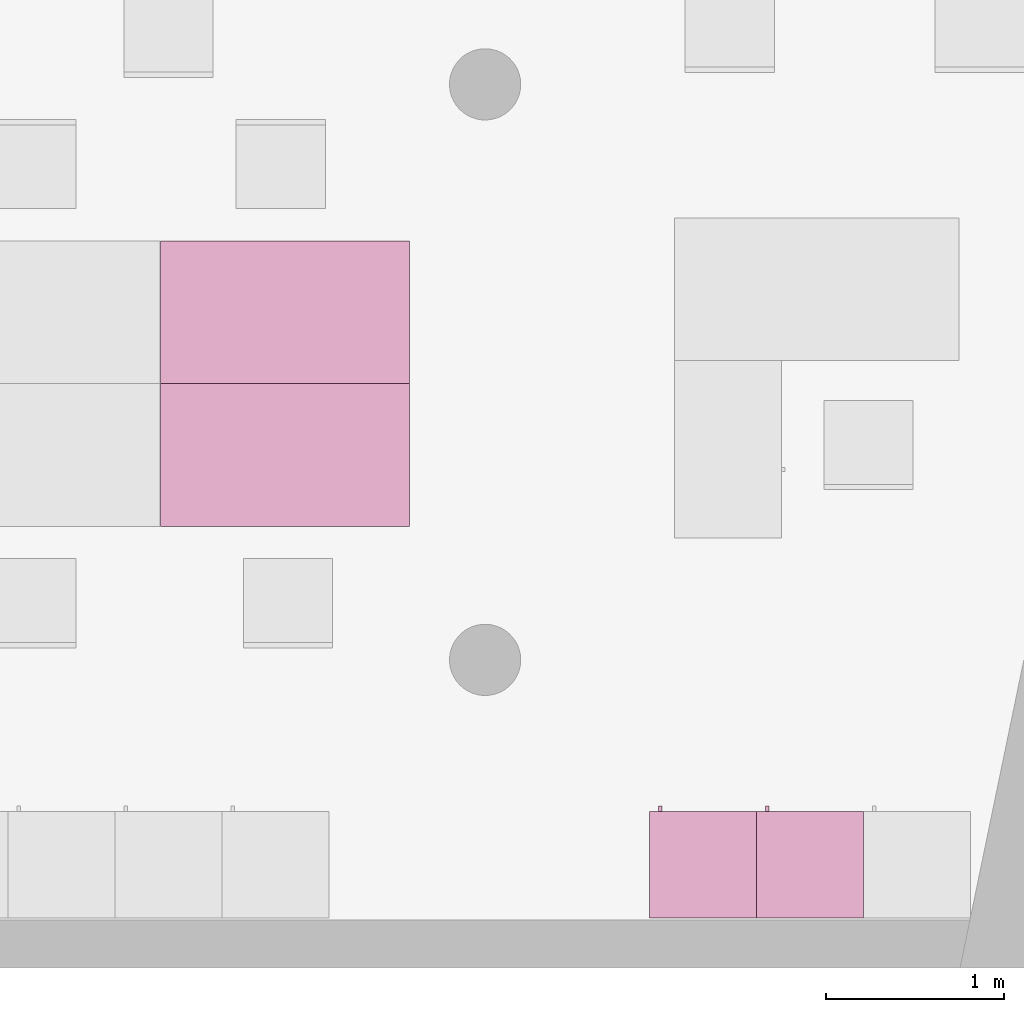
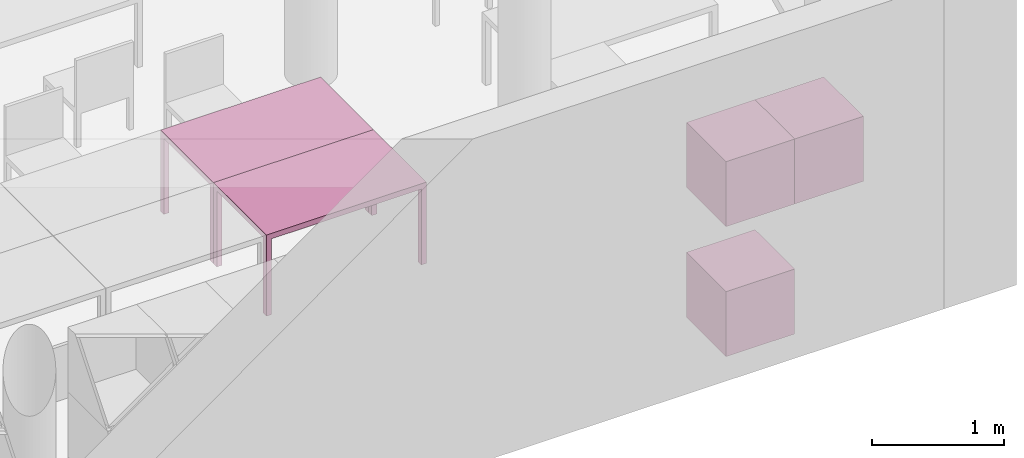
"""IFC4 building model written with IfcOpenShell, lengths in metres."""

from ifc_helpers import new_model, entity, si_unit, converted_unit, derived_unit, frame, origin, place, context, subcontext, project, spatial, faceted_brep, element, save


model = new_model("IFC4")

# Units and contexts
model_context = context("Model", 3, precision=1e-05, world=origin())
body_context = subcontext(model_context, "Body", "Model", "MODEL_VIEW")
ifc_project = project(units=[si_unit("LENGTHUNIT", "METRE"), si_unit("AREAUNIT", "SQUARE_METRE"), si_unit("VOLUMEUNIT", "CUBIC_METRE"), si_unit("MASSUNIT", "GRAM", prefix="KILO"), converted_unit("PLANEANGLEUNIT", "DEGREE", entity("IfcPlaneAngleMeasure", 0.0174532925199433), si_unit("PLANEANGLEUNIT", "RADIAN"), dimensions=[0, 0, 0, 0, 0, 0, 0]), derived_unit("THERMALTRANSMITTANCEUNIT", [(si_unit("POWERUNIT", "WATT"), 1), (si_unit("THERMODYNAMICTEMPERATUREUNIT", "KELVIN"), -1), (si_unit("LENGTHUNIT", "METRE"), -2)]), derived_unit("VOLUMETRICFLOWRATEUNIT", [(si_unit("LENGTHUNIT", "METRE"), 3), (converted_unit("TIMEUNIT", "hour", entity("IfcTimeMeasure", 3600.0), si_unit("TIMEUNIT", "SECOND"), dimensions=[0, 0, 1, 0, 0, 0, 0]), -1), (si_unit("LENGTHUNIT", "METRE"), -1)])], contexts=[model_context])

# Building, storeys
building_placement = place(None, origin())
building = spatial("IfcBuilding", under=ifc_project, at=building_placement, Name="HABITATGE PLURIFAMILIAR", CompositionType="ELEMENT")
storey_1_placement = place(building_placement, frame((0.0, 0.0, 15.28)))
storey_1 = spatial("IfcBuildingStorey", under=building, at=storey_1_placement, Name="PLANTA QUARTA", CompositionType="ELEMENT", Elevation=15.28)
storey_2_placement = place(storey_1_placement, frame((0.0, 0.0, 12.27)))
storey_2 = spatial("IfcBuildingStorey", under=storey_1, at=storey_2_placement, Name="NOU", CompositionType="PARTIAL")

# Furniture
furniture_1_placement = place(storey_2_placement, frame((419.17054591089, 15.3194598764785, -12.3699999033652)))
element("IfcFurniture", 1, at=furniture_1_placement, inside=storey_2, Name="Taula 140X80_P4", context=body_context, shape_type="Brep", body=[
    faceted_brep([(0.04375, 0.750069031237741, 0.0), (0.04375, 0.800069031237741, 0.0), (0.0, 0.800069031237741, 0.0), (0.0, 0.750069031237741, 0.0), (0.04375, 0.800069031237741, 0.7), (0.04375, 0.750069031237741, 0.7), (0.0, 0.750069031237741, 0.7), (0.0, 0.800069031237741, 0.7)], [[[0, 1, 2, 3]], [[4, 5, 6, 7]], [[1, 0, 5, 4]], [[2, 1, 4, 7]], [[3, 2, 7, 6]], [[0, 3, 6, 5]]], orient=[[False], [False], [False], [False], [False], [False]]),
    faceted_brep([(0.04375, 0.0, 0.0), (0.04375, 0.05, 0.0), (0.0, 0.05, 0.0), (0.0, 0.0, 0.0), (0.04375, 0.05, 0.7), (0.04375, 0.0, 0.7), (0.0, 0.0, 0.7), (0.0, 0.05, 0.7)], [[[0, 1, 2, 3]], [[4, 5, 6, 7]], [[1, 0, 5, 4]], [[2, 1, 4, 7]], [[3, 2, 7, 6]], [[0, 3, 6, 5]]], orient=[[False], [False], [False], [False], [False], [False]]),
    faceted_brep([(1.39732768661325, 0.0, 0.7), (1.39732768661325, 0.800069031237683, 0.7), (0.0, 0.800069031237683, 0.7), (0.0, 0.0, 0.7), (1.39732768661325, 0.800069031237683, 0.75), (1.39732768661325, 0.0, 0.75), (0.0, 0.0, 0.75), (0.0, 0.800069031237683, 0.75)], [[[0, 1, 2, 3]], [[4, 5, 6, 7]], [[1, 0, 5, 4]], [[2, 1, 4, 7]], [[3, 2, 7, 6]], [[0, 3, 6, 5]]], orient=[[False], [False], [False], [False], [False], [False]]),
    faceted_brep([(1.39732768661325, 0.750069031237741, 0.0), (1.39732768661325, 0.800069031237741, 0.0), (1.35357768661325, 0.800069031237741, 0.0), (1.35357768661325, 0.750069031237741, 0.0), (1.39732768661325, 0.800069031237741, 0.7), (1.39732768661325, 0.750069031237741, 0.7), (1.35357768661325, 0.750069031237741, 0.7), (1.35357768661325, 0.800069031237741, 0.7)], [[[0, 1, 2, 3]], [[4, 5, 6, 7]], [[1, 0, 5, 4]], [[2, 1, 4, 7]], [[3, 2, 7, 6]], [[0, 3, 6, 5]]], orient=[[False], [False], [False], [False], [False], [False]]),
    faceted_brep([(1.39732768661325, 0.0, 0.0), (1.39732768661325, 0.05, 0.0), (1.35357768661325, 0.05, 0.0), (1.35357768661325, 0.0, 0.0), (1.39732768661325, 0.05, 0.7), (1.39732768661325, 0.0, 0.7), (1.35357768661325, 0.0, 0.7), (1.35357768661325, 0.05, 0.7)], [[[0, 1, 2, 3]], [[4, 5, 6, 7]], [[1, 0, 5, 4]], [[2, 1, 4, 7]], [[3, 2, 7, 6]], [[0, 3, 6, 5]]], orient=[[False], [False], [False], [False], [False], [False]]),
])
furniture_2_placement = place(storey_2_placement, frame((419.17054591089, 16.1195289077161, -12.3699999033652)))
element("IfcFurniture", 2, at=furniture_2_placement, inside=storey_2, Name="Taula 140X80_P4", context=body_context, shape_type="Brep", body=[
    faceted_brep([(0.04375, 0.05, 0.0), (0.0, 0.05, 0.0), (0.0, 0.0, 0.0), (0.04375, 0.0, 0.0), (0.04375, 0.0, 0.7), (0.0, 0.0, 0.7), (0.0, 0.05, 0.7), (0.04375, 0.05, 0.7)], [[[0, 1, 2, 3]], [[4, 5, 6, 7]], [[3, 4, 7, 0]], [[2, 5, 4, 3]], [[1, 6, 5, 2]], [[0, 7, 6, 1]]], orient=[[False], [False], [False], [False], [False], [False]]),
    faceted_brep([(0.04375, 0.800069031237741, 0.0), (0.0, 0.800069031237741, 0.0), (0.0, 0.750069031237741, 0.0), (0.04375, 0.750069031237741, 0.0), (0.04375, 0.750069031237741, 0.7), (0.0, 0.750069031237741, 0.7), (0.0, 0.800069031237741, 0.7), (0.04375, 0.800069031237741, 0.7)], [[[0, 1, 2, 3]], [[4, 5, 6, 7]], [[3, 4, 7, 0]], [[2, 5, 4, 3]], [[1, 6, 5, 2]], [[0, 7, 6, 1]]], orient=[[False], [False], [False], [False], [False], [False]]),
    faceted_brep([(1.39732768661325, 0.800069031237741, 0.7), (0.0, 0.800069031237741, 0.7), (0.0, 0.0, 0.7), (1.39732768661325, 0.0, 0.7), (1.39732768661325, 0.0, 0.75), (0.0, 0.0, 0.75), (0.0, 0.800069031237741, 0.75), (1.39732768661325, 0.800069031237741, 0.75)], [[[0, 1, 2, 3]], [[4, 5, 6, 7]], [[3, 4, 7, 0]], [[2, 5, 4, 3]], [[1, 6, 5, 2]], [[0, 7, 6, 1]]], orient=[[False], [False], [False], [False], [False], [False]]),
    faceted_brep([(1.39732768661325, 0.05, 0.0), (1.35357768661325, 0.05, 0.0), (1.35357768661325, 0.0, 0.0), (1.39732768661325, 0.0, 0.0), (1.39732768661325, 0.0, 0.7), (1.35357768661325, 0.0, 0.7), (1.35357768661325, 0.05, 0.7), (1.39732768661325, 0.05, 0.7)], [[[0, 1, 2, 3]], [[4, 5, 6, 7]], [[3, 4, 7, 0]], [[2, 5, 4, 3]], [[1, 6, 5, 2]], [[0, 7, 6, 1]]], orient=[[False], [False], [False], [False], [False], [False]]),
    faceted_brep([(1.39732768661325, 0.800069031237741, 0.0), (1.35357768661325, 0.800069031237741, 0.0), (1.35357768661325, 0.750069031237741, 0.0), (1.39732768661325, 0.750069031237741, 0.0), (1.39732768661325, 0.750069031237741, 0.7), (1.35357768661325, 0.750069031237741, 0.7), (1.35357768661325, 0.800069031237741, 0.7), (1.39732768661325, 0.800069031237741, 0.7)], [[[0, 1, 2, 3]], [[4, 5, 6, 7]], [[3, 4, 7, 0]], [[2, 5, 4, 3]], [[1, 6, 5, 2]], [[0, 7, 6, 1]]], orient=[[False], [False], [False], [False], [False], [False]]),
])
furniture_3_placement = place(storey_2_placement, frame((421.91527037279, 13.1194598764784, -11.17)))
element("IfcFurniture", 3, at=furniture_3_placement, inside=storey_2, Name="Armai 60x60x60_P4", context=body_context, shape_type="Brep", body=[
    faceted_brep([(0.0, 0.6, 0.02), (0.0, 0.6, 0.0), (0.6, 0.6, 0.0), (0.6, 0.6, 0.02), (0.6, 0.0, 0.0), (0.6, 0.0, 0.02), (0.0, 0.0, 0.0), (0.0, 0.0, 0.02)], [[[0, 1, 2, 3]], [[3, 2, 4, 5]], [[5, 4, 6, 7]], [[7, 6, 1, 0]], [[0, 3, 5, 7]], [[1, 6, 4, 2]]], orient=[[False], [False], [False], [False], [False], [False]]),
    faceted_brep([(0.580000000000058, 0.0, 0.58), (0.580000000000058, 0.0200000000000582, 0.58), (0.580000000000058, 0.0200000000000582, 0.02), (0.580000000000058, 0.0, 0.02), (0.0200000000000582, 0.0200000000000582, 0.02), (0.0200000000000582, 0.0, 0.02), (0.0200000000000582, 0.0200000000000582, 0.58), (0.0200000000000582, 0.0, 0.58)], [[[0, 1, 2, 3]], [[3, 2, 4, 5]], [[5, 4, 6, 7]], [[7, 6, 1, 0]], [[0, 3, 5, 7]], [[1, 6, 4, 2]]], orient=[[False], [False], [False], [False], [False], [False]]),
    faceted_brep([(0.0200000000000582, 0.6, 0.58), (0.0, 0.6, 0.58), (0.0, 0.6, 0.02), (0.0200000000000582, 0.6, 0.02), (0.0, 0.0, 0.02), (0.0200000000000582, 0.0, 0.02), (0.0, 0.0, 0.58), (0.0200000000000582, 0.0, 0.58)], [[[0, 1, 2, 3]], [[3, 2, 4, 5]], [[5, 4, 6, 7]], [[7, 6, 1, 0]], [[0, 3, 5, 7]], [[1, 6, 4, 2]]], orient=[[False], [False], [False], [False], [False], [False]]),
    faceted_brep([(0.0, 0.58, 0.58), (0.0, 0.6, 0.58), (0.0, 0.6, 0.02), (0.0, 0.58, 0.02), (0.02, 0.6, 0.02), (0.02, 0.58, 0.02), (0.02, 0.6, 0.58), (0.02, 0.58, 0.58)], [[[0, 1, 2, 3]], [[3, 2, 4, 5]], [[5, 4, 6, 7]], [[7, 6, 1, 0]], [[0, 3, 5, 7]], [[1, 6, 4, 2]]], orient=[[False], [False], [False], [False], [False], [False]]),
    faceted_brep([(0.6, 0.6, 0.58), (0.58, 0.6, 0.58), (0.58, 0.6, 0.02), (0.6, 0.6, 0.02), (0.58, 0.0, 0.02), (0.6, 0.0, 0.02), (0.58, 0.0, 0.58), (0.6, 0.0, 0.58)], [[[0, 1, 2, 3]], [[3, 2, 4, 5]], [[5, 4, 6, 7]], [[7, 6, 1, 0]], [[0, 3, 5, 7]], [[1, 6, 4, 2]]], orient=[[False], [False], [False], [False], [False], [False]]),
    faceted_brep([(0.0, 0.600000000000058, 0.6), (0.0, 0.600000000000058, 0.58), (0.600000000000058, 0.600000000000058, 0.58), (0.600000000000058, 0.600000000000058, 0.6), (0.600000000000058, 0.0, 0.58), (0.600000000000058, 0.0, 0.6), (0.0, 0.0, 0.58), (0.0, 0.0, 0.6)], [[[0, 1, 2, 3]], [[3, 2, 4, 5]], [[5, 4, 6, 7]], [[7, 6, 1, 0]], [[0, 3, 5, 7]], [[1, 6, 4, 2]]], orient=[[False], [False], [False], [False], [False], [False]]),
    faceted_brep([(0.580000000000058, 0.580000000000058, 0.58), (0.580000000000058, 0.600000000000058, 0.58), (0.580000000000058, 0.600000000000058, 0.02), (0.580000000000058, 0.580000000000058, 0.02), (0.02, 0.600000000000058, 0.02), (0.02, 0.580000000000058, 0.02), (0.02, 0.600000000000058, 0.58), (0.02, 0.580000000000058, 0.58)], [[[0, 1, 2, 3]], [[3, 2, 4, 5]], [[5, 4, 6, 7]], [[7, 6, 1, 0]], [[0, 3, 5, 7]], [[1, 6, 4, 2]]], orient=[[False], [False], [False], [False], [False], [False]]),
    faceted_brep([(0.0700000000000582, 0.600000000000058, 0.358064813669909), (0.0700000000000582, 0.630000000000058, 0.358064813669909), (0.0700000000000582, 0.630000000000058, 0.258064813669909), (0.0700000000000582, 0.600000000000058, 0.258064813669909), (0.0500000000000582, 0.630000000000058, 0.258064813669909), (0.0500000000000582, 0.600000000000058, 0.258064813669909), (0.0500000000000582, 0.630000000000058, 0.358064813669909), (0.0500000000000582, 0.600000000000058, 0.358064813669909)], [[[0, 1, 2, 3]], [[3, 2, 4, 5]], [[5, 4, 6, 7]], [[7, 6, 1, 0]], [[0, 3, 5, 7]], [[1, 6, 4, 2]]], orient=[[False], [False], [False], [False], [False], [False]]),
])
furniture_4_placement = place(storey_2_placement, frame((422.51527037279, 13.1194598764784, -11.17)))
element("IfcFurniture", 4, at=furniture_4_placement, inside=storey_2, Name="Armai 60x60x60_P4", context=body_context, shape_type="Brep", body=[
    faceted_brep([(0.0, 0.6, 0.02), (0.0, 0.6, 0.0), (0.6, 0.6, 0.0), (0.6, 0.6, 0.02), (0.6, 0.0, 0.0), (0.6, 0.0, 0.02), (0.0, 0.0, 0.0), (0.0, 0.0, 0.02)], [[[0, 1, 2, 3]], [[3, 2, 4, 5]], [[5, 4, 6, 7]], [[7, 6, 1, 0]], [[0, 3, 5, 7]], [[1, 6, 4, 2]]], orient=[[False], [False], [False], [False], [False], [False]]),
    faceted_brep([(0.580000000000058, 0.0, 0.58), (0.580000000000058, 0.0200000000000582, 0.58), (0.580000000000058, 0.0200000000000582, 0.02), (0.580000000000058, 0.0, 0.02), (0.0200000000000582, 0.0200000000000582, 0.02), (0.0200000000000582, 0.0, 0.02), (0.0200000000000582, 0.0200000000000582, 0.58), (0.0200000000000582, 0.0, 0.58)], [[[0, 1, 2, 3]], [[3, 2, 4, 5]], [[5, 4, 6, 7]], [[7, 6, 1, 0]], [[0, 3, 5, 7]], [[1, 6, 4, 2]]], orient=[[False], [False], [False], [False], [False], [False]]),
    faceted_brep([(0.0200000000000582, 0.6, 0.58), (0.0, 0.6, 0.58), (0.0, 0.6, 0.02), (0.0200000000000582, 0.6, 0.02), (0.0, 0.0, 0.02), (0.0200000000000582, 0.0, 0.02), (0.0, 0.0, 0.58), (0.0200000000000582, 0.0, 0.58)], [[[0, 1, 2, 3]], [[3, 2, 4, 5]], [[5, 4, 6, 7]], [[7, 6, 1, 0]], [[0, 3, 5, 7]], [[1, 6, 4, 2]]], orient=[[False], [False], [False], [False], [False], [False]]),
    faceted_brep([(0.0, 0.58, 0.58), (0.0, 0.6, 0.58), (0.0, 0.6, 0.02), (0.0, 0.58, 0.02), (0.02, 0.6, 0.02), (0.02, 0.58, 0.02), (0.02, 0.6, 0.58), (0.02, 0.58, 0.58)], [[[0, 1, 2, 3]], [[3, 2, 4, 5]], [[5, 4, 6, 7]], [[7, 6, 1, 0]], [[0, 3, 5, 7]], [[1, 6, 4, 2]]], orient=[[False], [False], [False], [False], [False], [False]]),
    faceted_brep([(0.6, 0.6, 0.58), (0.58, 0.6, 0.58), (0.58, 0.6, 0.02), (0.6, 0.6, 0.02), (0.58, 0.0, 0.02), (0.6, 0.0, 0.02), (0.58, 0.0, 0.58), (0.6, 0.0, 0.58)], [[[0, 1, 2, 3]], [[3, 2, 4, 5]], [[5, 4, 6, 7]], [[7, 6, 1, 0]], [[0, 3, 5, 7]], [[1, 6, 4, 2]]], orient=[[False], [False], [False], [False], [False], [False]]),
    faceted_brep([(0.0, 0.600000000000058, 0.6), (0.0, 0.600000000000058, 0.58), (0.600000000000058, 0.600000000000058, 0.58), (0.600000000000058, 0.600000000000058, 0.6), (0.600000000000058, 0.0, 0.58), (0.600000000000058, 0.0, 0.6), (0.0, 0.0, 0.58), (0.0, 0.0, 0.6)], [[[0, 1, 2, 3]], [[3, 2, 4, 5]], [[5, 4, 6, 7]], [[7, 6, 1, 0]], [[0, 3, 5, 7]], [[1, 6, 4, 2]]], orient=[[False], [False], [False], [False], [False], [False]]),
    faceted_brep([(0.580000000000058, 0.580000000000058, 0.58), (0.580000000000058, 0.600000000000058, 0.58), (0.580000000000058, 0.600000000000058, 0.02), (0.580000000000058, 0.580000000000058, 0.02), (0.02, 0.600000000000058, 0.02), (0.02, 0.580000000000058, 0.02), (0.02, 0.600000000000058, 0.58), (0.02, 0.580000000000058, 0.58)], [[[0, 1, 2, 3]], [[3, 2, 4, 5]], [[5, 4, 6, 7]], [[7, 6, 1, 0]], [[0, 3, 5, 7]], [[1, 6, 4, 2]]], orient=[[False], [False], [False], [False], [False], [False]]),
    faceted_brep([(0.0700000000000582, 0.600000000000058, 0.358064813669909), (0.0700000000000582, 0.630000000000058, 0.358064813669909), (0.0700000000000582, 0.630000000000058, 0.258064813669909), (0.0700000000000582, 0.600000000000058, 0.258064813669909), (0.0500000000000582, 0.630000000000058, 0.258064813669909), (0.0500000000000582, 0.600000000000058, 0.258064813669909), (0.0500000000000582, 0.630000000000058, 0.358064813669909), (0.0500000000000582, 0.600000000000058, 0.358064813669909)], [[[0, 1, 2, 3]], [[3, 2, 4, 5]], [[5, 4, 6, 7]], [[7, 6, 1, 0]], [[0, 3, 5, 7]], [[1, 6, 4, 2]]], orient=[[False], [False], [False], [False], [False], [False]]),
])
furniture_5_placement = place(storey_2_placement, frame((421.91527037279, 13.1194598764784, -12.37)))
element("IfcFurniture", 5, at=furniture_5_placement, inside=storey_2, Name="Armai 60x60x60_P4", context=body_context, shape_type="Brep", body=[
    faceted_brep([(0.0, 0.6, 0.02), (0.0, 0.6, 0.0), (0.6, 0.6, 0.0), (0.6, 0.6, 0.02), (0.6, 0.0, 0.0), (0.6, 0.0, 0.02), (0.0, 0.0, 0.0), (0.0, 0.0, 0.02)], [[[0, 1, 2, 3]], [[3, 2, 4, 5]], [[5, 4, 6, 7]], [[7, 6, 1, 0]], [[0, 3, 5, 7]], [[1, 6, 4, 2]]], orient=[[False], [False], [False], [False], [False], [False]]),
    faceted_brep([(0.580000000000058, 0.0, 0.58), (0.580000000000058, 0.0200000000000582, 0.58), (0.580000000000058, 0.0200000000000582, 0.02), (0.580000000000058, 0.0, 0.02), (0.0200000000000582, 0.0200000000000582, 0.02), (0.0200000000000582, 0.0, 0.02), (0.0200000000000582, 0.0200000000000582, 0.58), (0.0200000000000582, 0.0, 0.58)], [[[0, 1, 2, 3]], [[3, 2, 4, 5]], [[5, 4, 6, 7]], [[7, 6, 1, 0]], [[0, 3, 5, 7]], [[1, 6, 4, 2]]], orient=[[False], [False], [False], [False], [False], [False]]),
    faceted_brep([(0.0200000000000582, 0.6, 0.58), (0.0, 0.6, 0.58), (0.0, 0.6, 0.02), (0.0200000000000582, 0.6, 0.02), (0.0, 0.0, 0.02), (0.0200000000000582, 0.0, 0.02), (0.0, 0.0, 0.58), (0.0200000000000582, 0.0, 0.58)], [[[0, 1, 2, 3]], [[3, 2, 4, 5]], [[5, 4, 6, 7]], [[7, 6, 1, 0]], [[0, 3, 5, 7]], [[1, 6, 4, 2]]], orient=[[False], [False], [False], [False], [False], [False]]),
    faceted_brep([(0.0, 0.58, 0.58), (0.0, 0.6, 0.58), (0.0, 0.6, 0.02), (0.0, 0.58, 0.02), (0.02, 0.6, 0.02), (0.02, 0.58, 0.02), (0.02, 0.6, 0.58), (0.02, 0.58, 0.58)], [[[0, 1, 2, 3]], [[3, 2, 4, 5]], [[5, 4, 6, 7]], [[7, 6, 1, 0]], [[0, 3, 5, 7]], [[1, 6, 4, 2]]], orient=[[False], [False], [False], [False], [False], [False]]),
    faceted_brep([(0.6, 0.6, 0.58), (0.58, 0.6, 0.58), (0.58, 0.6, 0.02), (0.6, 0.6, 0.02), (0.58, 0.0, 0.02), (0.6, 0.0, 0.02), (0.58, 0.0, 0.58), (0.6, 0.0, 0.58)], [[[0, 1, 2, 3]], [[3, 2, 4, 5]], [[5, 4, 6, 7]], [[7, 6, 1, 0]], [[0, 3, 5, 7]], [[1, 6, 4, 2]]], orient=[[False], [False], [False], [False], [False], [False]]),
    faceted_brep([(0.0, 0.600000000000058, 0.6), (0.0, 0.600000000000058, 0.58), (0.600000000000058, 0.600000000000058, 0.58), (0.600000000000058, 0.600000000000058, 0.6), (0.600000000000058, 0.0, 0.58), (0.600000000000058, 0.0, 0.6), (0.0, 0.0, 0.58), (0.0, 0.0, 0.6)], [[[0, 1, 2, 3]], [[3, 2, 4, 5]], [[5, 4, 6, 7]], [[7, 6, 1, 0]], [[0, 3, 5, 7]], [[1, 6, 4, 2]]], orient=[[False], [False], [False], [False], [False], [False]]),
    faceted_brep([(0.580000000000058, 0.580000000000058, 0.58), (0.580000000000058, 0.600000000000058, 0.58), (0.580000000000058, 0.600000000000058, 0.02), (0.580000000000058, 0.580000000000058, 0.02), (0.02, 0.600000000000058, 0.02), (0.02, 0.580000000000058, 0.02), (0.02, 0.600000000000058, 0.58), (0.02, 0.580000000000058, 0.58)], [[[0, 1, 2, 3]], [[3, 2, 4, 5]], [[5, 4, 6, 7]], [[7, 6, 1, 0]], [[0, 3, 5, 7]], [[1, 6, 4, 2]]], orient=[[False], [False], [False], [False], [False], [False]]),
    faceted_brep([(0.0700000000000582, 0.600000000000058, 0.358064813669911), (0.0700000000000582, 0.630000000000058, 0.358064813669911), (0.0700000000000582, 0.630000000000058, 0.258064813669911), (0.0700000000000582, 0.600000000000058, 0.258064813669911), (0.0500000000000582, 0.630000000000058, 0.258064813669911), (0.0500000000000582, 0.600000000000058, 0.258064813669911), (0.0500000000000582, 0.630000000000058, 0.358064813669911), (0.0500000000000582, 0.600000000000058, 0.358064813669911)], [[[0, 1, 2, 3]], [[3, 2, 4, 5]], [[5, 4, 6, 7]], [[7, 6, 1, 0]], [[0, 3, 5, 7]], [[1, 6, 4, 2]]], orient=[[False], [False], [False], [False], [False], [False]]),
])

save(model, "model.ifc")
